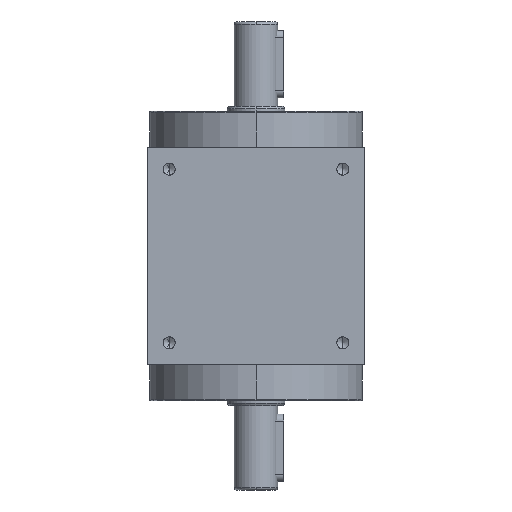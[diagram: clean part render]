
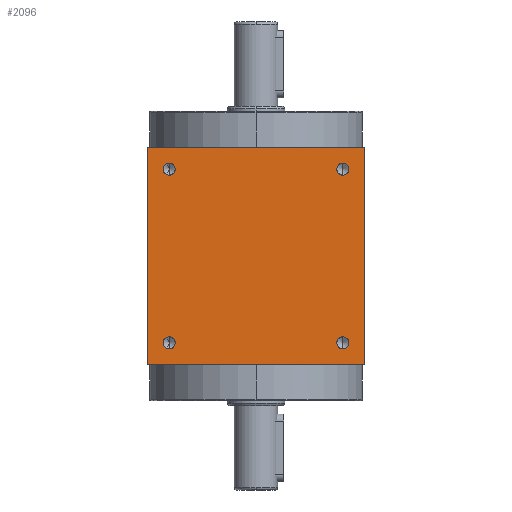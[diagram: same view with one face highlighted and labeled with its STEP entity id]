
A CAD part, left-side view. The second image highlights one B-rep face of the part: STEP entity #2096.
In plain terms, the highlighted planar face has unit normal (-1, 0, 0).
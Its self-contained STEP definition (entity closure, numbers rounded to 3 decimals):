
#198=PLANE('',#8375);
#643=LINE('',#12403,#1177);
#644=LINE('',#12406,#1178);
#645=LINE('',#12408,#1179);
#646=LINE('',#12410,#1180);
#1177=VECTOR('',#9555,1.);
#1178=VECTOR('',#9556,1.);
#1179=VECTOR('',#9557,1.);
#1180=VECTOR('',#9558,1.);
#1886=FACE_BOUND('',#2989,.T.);
#1887=FACE_BOUND('',#2990,.T.);
#1888=FACE_BOUND('',#2991,.T.);
#1889=FACE_BOUND('',#2992,.T.);
#1890=FACE_BOUND('',#2993,.T.);
#2096=ADVANCED_FACE('',(#1886,#1887,#1888,#1889,#1890),#198,.F.);
#2989=EDGE_LOOP('',(#3868,#3869));
#2990=EDGE_LOOP('',(#3870,#3871));
#2991=EDGE_LOOP('',(#3872,#3873));
#2992=EDGE_LOOP('',(#3874,#3875));
#2993=EDGE_LOOP('',(#3876,#3877,#3878,#3879));
#3868=ORIENTED_EDGE('',*,*,#6935,.F.);
#3869=ORIENTED_EDGE('',*,*,#6640,.F.);
#3870=ORIENTED_EDGE('',*,*,#6936,.F.);
#3871=ORIENTED_EDGE('',*,*,#6654,.F.);
#3872=ORIENTED_EDGE('',*,*,#6937,.F.);
#3873=ORIENTED_EDGE('',*,*,#6668,.F.);
#3874=ORIENTED_EDGE('',*,*,#6938,.F.);
#3875=ORIENTED_EDGE('',*,*,#6690,.F.);
#3876=ORIENTED_EDGE('',*,*,#6939,.T.);
#3877=ORIENTED_EDGE('',*,*,#6940,.F.);
#3878=ORIENTED_EDGE('',*,*,#6941,.F.);
#3879=ORIENTED_EDGE('',*,*,#6942,.T.);
#5857=VERTEX_POINT('',#11487);
#5858=VERTEX_POINT('',#11489);
#5870=VERTEX_POINT('',#11535);
#5871=VERTEX_POINT('',#11537);
#5883=VERTEX_POINT('',#11583);
#5884=VERTEX_POINT('',#11585);
#5903=VERTEX_POINT('',#11657);
#5904=VERTEX_POINT('',#11659);
#6081=VERTEX_POINT('',#12404);
#6082=VERTEX_POINT('',#12405);
#6083=VERTEX_POINT('',#12407);
#6084=VERTEX_POINT('',#12409);
#6640=EDGE_CURVE('',#5857,#5858,#7823,.T.);
#6654=EDGE_CURVE('',#5870,#5871,#7825,.T.);
#6668=EDGE_CURVE('',#5883,#5884,#7827,.T.);
#6690=EDGE_CURVE('',#5903,#5904,#7830,.T.);
#6935=EDGE_CURVE('',#5858,#5857,#7874,.T.);
#6936=EDGE_CURVE('',#5871,#5870,#7875,.T.);
#6937=EDGE_CURVE('',#5884,#5883,#7876,.T.);
#6938=EDGE_CURVE('',#5904,#5903,#7877,.T.);
#6939=EDGE_CURVE('',#6081,#6082,#643,.T.);
#6940=EDGE_CURVE('',#6083,#6082,#644,.T.);
#6941=EDGE_CURVE('',#6084,#6083,#645,.T.);
#6942=EDGE_CURVE('',#6084,#6081,#646,.T.);
#7823=CIRCLE('',#8242,2.5);
#7825=CIRCLE('',#8247,2.5);
#7827=CIRCLE('',#8252,2.5);
#7830=CIRCLE('',#8260,2.5);
#7874=CIRCLE('',#8371,2.5);
#7875=CIRCLE('',#8372,2.5);
#7876=CIRCLE('',#8373,2.5);
#7877=CIRCLE('',#8374,2.5);
#8242=AXIS2_PLACEMENT_3D('',#11488,#9162,#9163);
#8247=AXIS2_PLACEMENT_3D('',#11536,#9178,#9179);
#8252=AXIS2_PLACEMENT_3D('',#11584,#9194,#9195);
#8260=AXIS2_PLACEMENT_3D('',#11658,#9220,#9221);
#8371=AXIS2_PLACEMENT_3D('',#12399,#9547,#9548);
#8372=AXIS2_PLACEMENT_3D('',#12400,#9549,#9550);
#8373=AXIS2_PLACEMENT_3D('',#12401,#9551,#9552);
#8374=AXIS2_PLACEMENT_3D('',#12402,#9553,#9554);
#8375=AXIS2_PLACEMENT_3D('',#12411,#9559,#9560);
#9162=DIRECTION('',(-1.,0.,0.));
#9163=DIRECTION('',(0.,0.,1.));
#9178=DIRECTION('',(-1.,0.,0.));
#9179=DIRECTION('',(0.,0.,1.));
#9194=DIRECTION('',(-1.,0.,0.));
#9195=DIRECTION('',(0.,0.,1.));
#9220=DIRECTION('',(-1.,0.,0.));
#9221=DIRECTION('',(0.,0.,1.));
#9547=DIRECTION('',(-1.,0.,0.));
#9548=DIRECTION('',(0.,0.,1.));
#9549=DIRECTION('',(-1.,0.,0.));
#9550=DIRECTION('',(0.,0.,1.));
#9551=DIRECTION('',(-1.,0.,0.));
#9552=DIRECTION('',(0.,0.,1.));
#9553=DIRECTION('',(-1.,0.,0.));
#9554=DIRECTION('',(0.,0.,1.));
#9555=DIRECTION('',(0.,-1.,0.));
#9556=DIRECTION('',(0.,0.,-1.));
#9557=DIRECTION('',(0.,-1.,0.));
#9558=DIRECTION('',(0.,0.,-1.));
#9559=DIRECTION('',(1.,0.,0.));
#9560=DIRECTION('',(0.,0.,-1.));
#11487=CARTESIAN_POINT('',(53.,36.,-53.5));
#11488=CARTESIAN_POINT('',(53.,36.,-51.));
#11489=CARTESIAN_POINT('',(53.,36.,-48.5));
#11535=CARTESIAN_POINT('',(53.,36.,18.5));
#11536=CARTESIAN_POINT('',(53.,36.,21.));
#11537=CARTESIAN_POINT('',(53.,36.,23.5));
#11583=CARTESIAN_POINT('',(53.,-36.,18.5));
#11584=CARTESIAN_POINT('',(53.,-36.,21.));
#11585=CARTESIAN_POINT('',(53.,-36.,23.5));
#11657=CARTESIAN_POINT('',(53.,-36.,-53.5));
#11658=CARTESIAN_POINT('',(53.,-36.,-51.));
#11659=CARTESIAN_POINT('',(53.,-36.,-48.5));
#12399=CARTESIAN_POINT('',(53.,36.,-51.));
#12400=CARTESIAN_POINT('',(53.,36.,21.));
#12401=CARTESIAN_POINT('',(53.,-36.,21.));
#12402=CARTESIAN_POINT('',(53.,-36.,-51.));
#12403=CARTESIAN_POINT('',(53.,-45.,-60.));
#12404=CARTESIAN_POINT('',(53.,45.,-60.));
#12405=CARTESIAN_POINT('',(53.,-45.,-60.));
#12406=CARTESIAN_POINT('',(53.,-45.,30.));
#12407=CARTESIAN_POINT('',(53.,-45.,30.));
#12408=CARTESIAN_POINT('',(53.,-45.,30.));
#12409=CARTESIAN_POINT('',(53.,45.,30.));
#12410=CARTESIAN_POINT('',(53.,45.,30.));
#12411=CARTESIAN_POINT('',(53.,-45.,30.));
